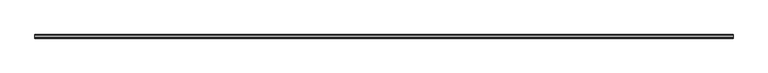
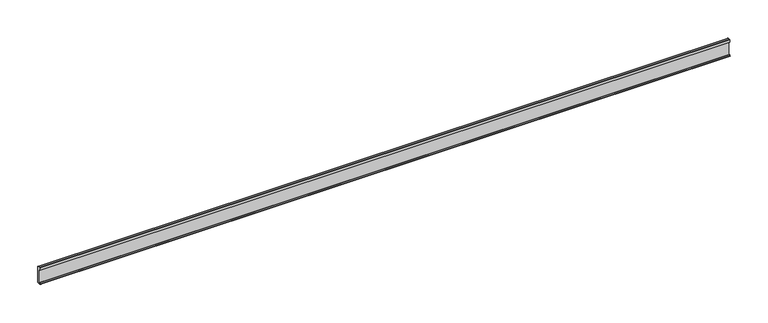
"""IFC4 building model written with IfcOpenShell, lengths in millimetres: proxy geometry, Weiku - Montante - Capa de folha 02.3.02.406 : Weiku - Montante - Capa de folha 02.3.02.406."""

from ifc_helpers import new_model, si_unit, point, frame, frame_2d, origin, place, context, project, spatial, polyline, circle_curve, trimmed, segment, composite_curve, outline, extrude, source, transform, mapped, element, save


def generic_models_e1d5bc00(model_context):
    return source(origin(), model_context, "Body", "SweptSolid", [
        extrude(outline(composite_curve([segment(polyline([(-4.6421508, 2.2715508), (-3.3866, 1.016), (-1.6933, 1.016), (-1.6933, 25.684), (-3.3063, 25.684), (-3.3063, 22.3396), (-4.28, 22.3396), (-4.28, 26.2)]), True, "CONTINUOUS"), segment(trimmed(circle_curve(frame_2d((-3.78, 26.2)), 0.5), [point((-4.28, 26.2))], [point((-3.78, 26.7))], False, "CARTESIAN"), True, "CONTINUOUS"), segment(polyline([(-3.78, 26.7), (-0.5, 26.7)]), True, "CONTINUOUS"), segment(trimmed(circle_curve(frame_2d((-0.5, 26.2)), 0.5), [point((-0.5, 26.7))], [point((0.0, 26.2))], False, "CARTESIAN"), True, "CONTINUOUS"), segment(polyline([(0.0, 26.2), (0.0, 0.5)]), True, "CONTINUOUS"), segment(trimmed(circle_curve(frame_2d((-0.5, 0.5)), 0.5), [point((0.0, 0.5))], [point((-0.5, 0.0))], False, "CARTESIAN"), True, "CONTINUOUS"), segment(polyline([(-0.5, 0.0), (-4.7576991, 0.0)]), True, "CONTINUOUS"), segment(trimmed(circle_curve(frame_2d((-4.7576991, 0.7)), 0.7), [point((-4.7576991, 0.0))], [point((-5.3603515, 1.056104))], False, "CARTESIAN"), True, "CONTINUOUS"), segment(polyline([(-5.3603515, 1.056104), (-4.6421508, 2.2715508)]), True, "CONTINUOUS")], self_intersect=False)), frame((-524.2, 0.0, 0.0), z_axis=(1.0, 0.0, 0.0), x_axis=(0.0, 1.0, 0.0)), (0.0, 0.0, 1.0), 1048.4),
    ])


if __name__ == "__main__":
    model = new_model("IFC4")
    model_context = context("Model", 3, world=origin())
    ifc_project = project(units=[si_unit("LENGTHUNIT", "METRE", prefix="MILLI")], contexts=[model_context])
    site = spatial("IfcSite", under=ifc_project)
    building = spatial("IfcBuilding", under=site)
    placement = place(None, origin())
    generic_models_shape = generic_models_e1d5bc00(model_context)
    element("IfcBuildingElementProxy", 1, Name="Weiku - Montante - Capa de folha 02.3.02.406 : Weiku - Montante - Capa de folha 02.3.02.406", ObjectType="Weiku - Montante - Capa de folha 02.3.02.406 : Weiku - Montante - Capa de folha 02.3.02.406", at=placement, inside=building, context=model_context, shape_type="MappedRepresentation", body=[
        mapped(generic_models_shape, transform((0.0, 0.0, 0.0), x_axis=(1.0, 0.0, 0.0), y_axis=(0.0, 1.0, 0.0), z_axis=(0.0, 0.0, 1.0))),
    ])
    save(model, "model.ifc")
